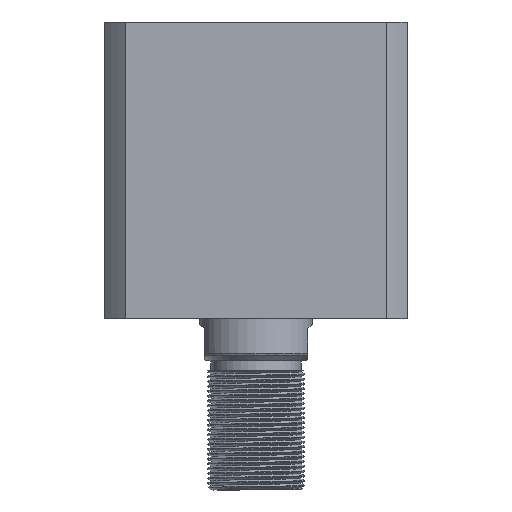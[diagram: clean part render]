
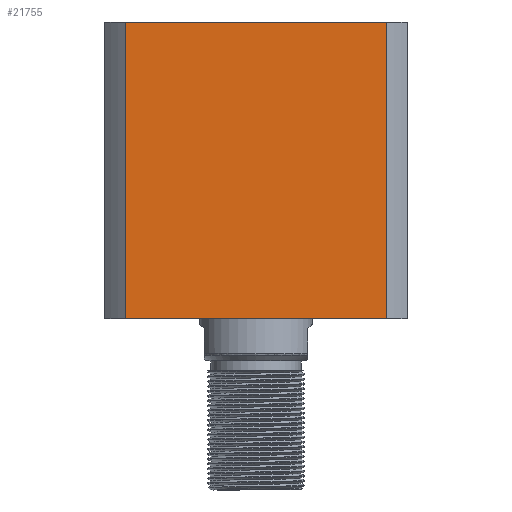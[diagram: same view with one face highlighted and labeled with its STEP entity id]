
A CAD part, front view. The second image highlights one B-rep face of the part: STEP entity #21755.
In plain terms, the highlighted planar face has unit normal (0, -1, 0) as drawn and (0, 1, 0) by its records, which use the part's own axes.
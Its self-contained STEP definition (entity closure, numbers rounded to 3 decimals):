
#116 = CARTESIAN_POINT ( 'NONE',  ( 40.435, 47., -208. ) ) ;
#1494 = LINE ( 'NONE', #116, #15406 ) ;
#1888 = DIRECTION ( 'NONE',  ( 0., 0., 1. ) ) ;
#2202 = VECTOR ( 'NONE', #16205, 1000. ) ;
#2747 = VECTOR ( 'NONE', #11683, 1000. ) ;
#3230 = DIRECTION ( 'NONE',  ( -1., 0., 0. ) ) ;
#4035 = CARTESIAN_POINT ( 'NONE',  ( -40.435, 47., -208. ) ) ;
#4417 = EDGE_CURVE ( 'NONE', #6632, #17487, #10373, .T. ) ;
#6632 = VERTEX_POINT ( 'NONE', #17386 ) ;
#7373 = LINE ( 'NONE', #4035, #2202 ) ;
#8129 = CARTESIAN_POINT ( 'NONE',  ( -47., 47., 92. ) ) ;
#9061 = PLANE ( 'NONE',  #9454 ) ;
#9375 = CARTESIAN_POINT ( 'NONE',  ( -40.435, 47., 92. ) ) ;
#9454 = AXIS2_PLACEMENT_3D ( 'NONE', #15986, #21111, #10856 ) ;
#10373 = LINE ( 'NONE', #13707, #15006 ) ;
#10856 = DIRECTION ( 'NONE',  ( 0., 0., -1. ) ) ;
#11161 = EDGE_CURVE ( 'NONE', #6632, #21591, #1494, .T. ) ;
#11683 = DIRECTION ( 'NONE',  ( -1., 0., 0. ) ) ;
#12057 = LINE ( 'NONE', #8129, #2747 ) ;
#12574 = ORIENTED_EDGE ( 'NONE', *, *, #4417, .T. ) ;
#12584 = CARTESIAN_POINT ( 'NONE',  ( -40.435, 47., 0. ) ) ;
#13507 = ORIENTED_EDGE ( 'NONE', *, *, #11161, .F. ) ;
#13707 = CARTESIAN_POINT ( 'NONE',  ( -47., 47., 0. ) ) ;
#14170 = FACE_OUTER_BOUND ( 'NONE', #20006, .T. ) ;
#14772 = VERTEX_POINT ( 'NONE', #9375 ) ;
#15006 = VECTOR ( 'NONE', #3230, 1000. ) ;
#15357 = ORIENTED_EDGE ( 'NONE', *, *, #17906, .F. ) ;
#15406 = VECTOR ( 'NONE', #1888, 1000. ) ;
#15986 = CARTESIAN_POINT ( 'NONE',  ( -47., 47., 92. ) ) ;
#16205 = DIRECTION ( 'NONE',  ( 0., 0., -1. ) ) ;
#16800 = CARTESIAN_POINT ( 'NONE',  ( 40.435, 47., 92. ) ) ;
#17386 = CARTESIAN_POINT ( 'NONE',  ( 40.435, 47., 0. ) ) ;
#17487 = VERTEX_POINT ( 'NONE', #12584 ) ;
#17906 = EDGE_CURVE ( 'NONE', #14772, #17487, #7373, .T. ) ;
#19236 = EDGE_CURVE ( 'NONE', #21591, #14772, #12057, .T. ) ;
#20006 = EDGE_LOOP ( 'NONE', ( #13507, #12574, #15357, #20552 ) ) ;
#20552 = ORIENTED_EDGE ( 'NONE', *, *, #19236, .F. ) ;
#21111 = DIRECTION ( 'NONE',  ( 0., -1., 0. ) ) ;
#21591 = VERTEX_POINT ( 'NONE', #16800 ) ;
#21755 = ADVANCED_FACE ( 'NONE', ( #14170 ), #9061, .F. ) ;
